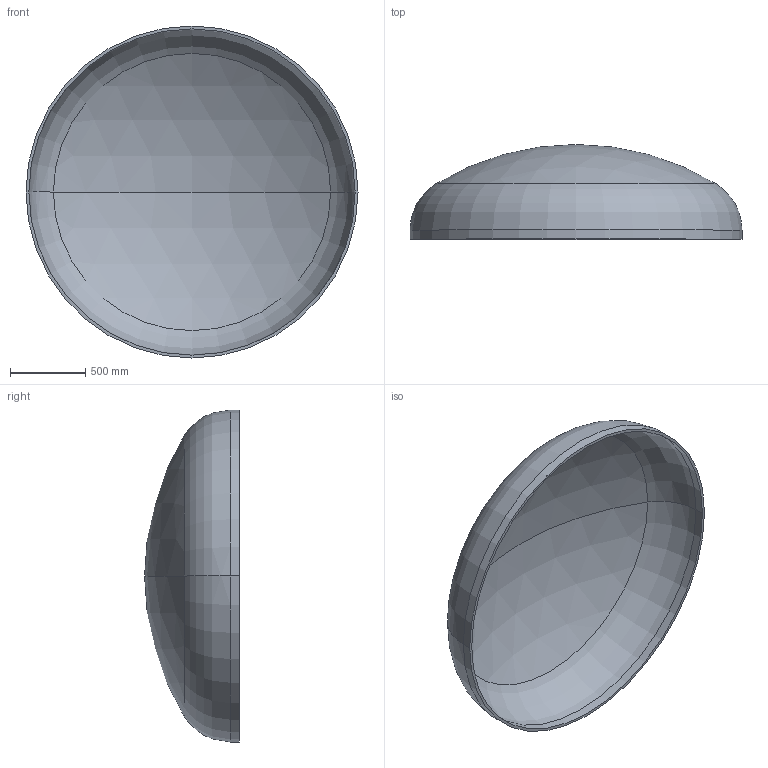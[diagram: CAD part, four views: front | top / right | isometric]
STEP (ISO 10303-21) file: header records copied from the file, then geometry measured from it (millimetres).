
FILE_DESCRIPTION (( 'STEP AP203' ), '1' );
FILE_NAME ('DIN 28013 Korbbogenform_-_Boden DIN 28013 - 2200 x 60 - I - s=19.step', '2016-07-01T14:23:48', ( '' ), ( '' ), 'SwSTEP 2.0', 'SolidWorks 2013', '' );
FILE_SCHEMA (( 'CONFIG_CONTROL_DESIGN' ));
Length unit declared in the file: millimetre
Products named in the file (1): DIN 28013 Korbbogenform_-_Boden DIN 28013 - 2200 x 60 - I - s=19
Bounding box: 2200 x 627.67 x 2200 mm (x, y, z)
Volume: 106774913.6 mm3; surface area: 11370400.9 mm2
Topology: 1 solids, 1 shells, 13 faces, 24 edges, 14 vertices
Faces by surface type: torus 4, cylinder 4, sphere 4, plane 1
Entity records: 407 total; most frequent: DIRECTION 72, CARTESIAN_POINT 52, ORIENTED_EDGE 48, AXIS2_PLACEMENT_3D 34, EDGE_CURVE 24, CIRCLE 20, EDGE_LOOP 14, VERTEX_POINT 14
